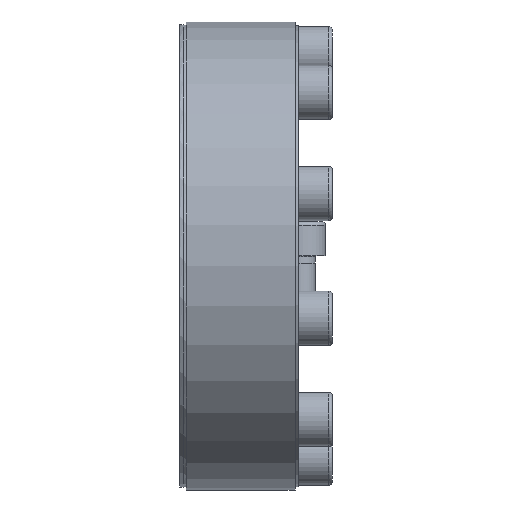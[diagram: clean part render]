
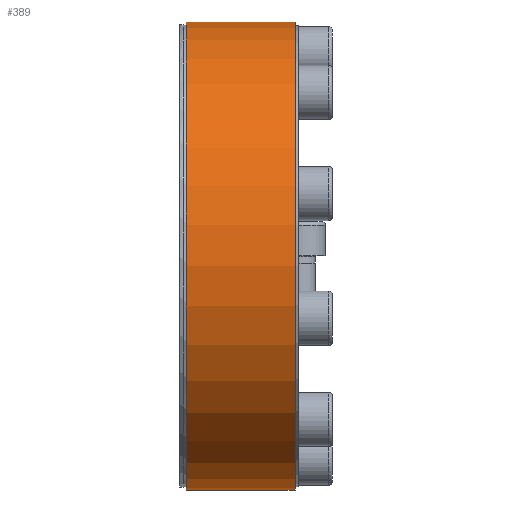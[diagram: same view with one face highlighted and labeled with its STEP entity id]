
A CAD part, left-side view. The second image highlights one B-rep face of the part: STEP entity #389.
In plain terms, the highlighted cylindrical face has radius 69 mm (diameter 138 mm), a partial arc.
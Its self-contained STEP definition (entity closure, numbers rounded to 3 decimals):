
#389 = ADVANCED_FACE( '', ( #601 ), #602, .T. );
#601 = FACE_OUTER_BOUND( '', #755, .T. );
#602 = CYLINDRICAL_SURFACE( '', #756, 69. );
#755 = EDGE_LOOP( '', ( #937, #938, #939, #940 ) );
#756 = AXIS2_PLACEMENT_3D( '', #941, #942, #943 );
#937 = ORIENTED_EDGE( '', *, *, #1299, .F. );
#938 = ORIENTED_EDGE( '', *, *, #1300, .T. );
#939 = ORIENTED_EDGE( '', *, *, #1301, .T. );
#940 = ORIENTED_EDGE( '', *, *, #1302, .F. );
#941 = CARTESIAN_POINT( '', ( 0., -60., 0. ) );
#942 = DIRECTION( '', ( 0., 1., 0. ) );
#943 = DIRECTION( '', ( 0., 0., -1. ) );
#1299 = EDGE_CURVE( '', #1443, #1444, #1445, .T. );
#1300 = EDGE_CURVE( '', #1443, #1446, #1447, .T. );
#1301 = EDGE_CURVE( '', #1446, #1448, #1449, .T. );
#1302 = EDGE_CURVE( '', #1444, #1448, #1450, .T. );
#1443 = VERTEX_POINT( '', #1563 );
#1444 = VERTEX_POINT( '', #1564 );
#1445 = LINE( '', #1565, #1566 );
#1446 = VERTEX_POINT( '', #1567 );
#1447 = CIRCLE( '', #1568, 69. );
#1448 = VERTEX_POINT( '', #1569 );
#1449 = LINE( '', #1570, #1571 );
#1450 = CIRCLE( '', #1572, 69. );
#1563 = CARTESIAN_POINT( '', ( 20.13, 33., 65.998 ) );
#1564 = CARTESIAN_POINT( '', ( 20.13, 1., 65.998 ) );
#1565 = CARTESIAN_POINT( '', ( 20.13, -60., 65.998 ) );
#1566 = VECTOR( '', #1726, 1000. );
#1567 = CARTESIAN_POINT( '', ( 22.507, 33., 65.226 ) );
#1568 = AXIS2_PLACEMENT_3D( '', #1727, #1728, #1729 );
#1569 = CARTESIAN_POINT( '', ( 22.507, 1., 65.226 ) );
#1570 = CARTESIAN_POINT( '', ( 22.507, -60., 65.226 ) );
#1571 = VECTOR( '', #1730, 1000. );
#1572 = AXIS2_PLACEMENT_3D( '', #1731, #1732, #1733 );
#1726 = DIRECTION( '', ( 0., -1., 0. ) );
#1727 = CARTESIAN_POINT( '', ( 0., 33., 0. ) );
#1728 = DIRECTION( '', ( 0., -1., 0. ) );
#1729 = DIRECTION( '', ( 0., 0., -1. ) );
#1730 = DIRECTION( '', ( 0., -1., 0. ) );
#1731 = CARTESIAN_POINT( '', ( 0., 1., 0. ) );
#1732 = DIRECTION( '', ( 0., -1., 0. ) );
#1733 = DIRECTION( '', ( 0., 0., -1. ) );
